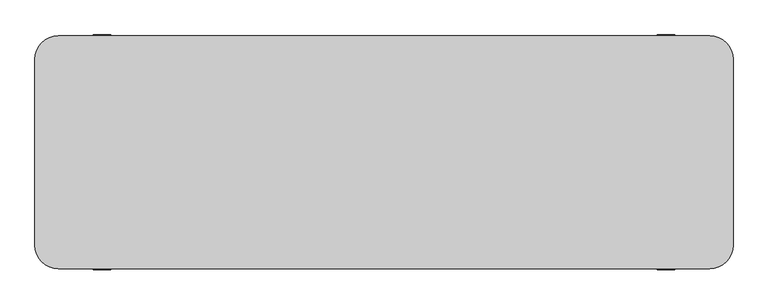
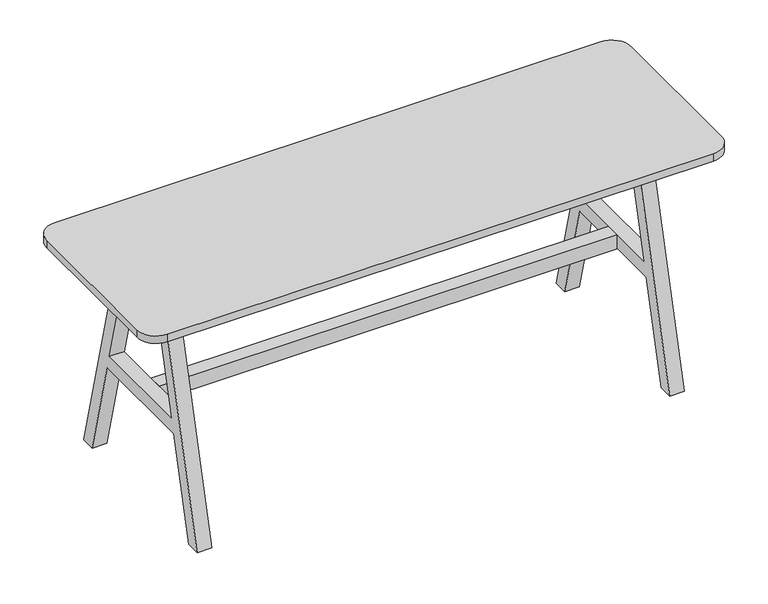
"""IFC4 building model written with IfcOpenShell, lengths in millimetres: furniture geometry, Furniture-Chair-LyndonDesign-Agent_AGE_15 : Furniture-Chair-LyndonDesign-Agent_AGE_15."""

from ifc_helpers import new_model, si_unit, point, frame, frame_2d, origin, place, context, project, spatial, polyline, circle_curve, trimmed, segment, composite_curve, outline, extrude, source, transform, mapped, element, save


def furniture_621fa09e(model_context):
    return source(origin(), model_context, "Body", "SweptSolid", [
        extrude(outline(composite_curve([segment(trimmed(circle_curve(frame_2d((178.4999996, 719.9999819)), 43.9999938), [point((222.3177997, 716.0))], [point((178.4999996, 675.9999881))], False, "CARTESIAN"), True, "CONTINUOUS"), segment(polyline([(178.4999996, 675.9999881), (142.631489, 675.9999881)]), True, "CONTINUOUS"), segment(trimmed(circle_curve(frame_2d((142.631489, 663.8271245)), 12.1728635), [point((142.631489, 675.9999881))], [point((130.4586255, 663.8271245))], True, "CARTESIAN"), True, "CONTINUOUS"), segment(polyline([(130.4586255, 663.8271245), (302.6962324, 0.0), (257.0062993, 0.0), (176.5712314, 309.999989), (-176.571241, 309.999989), (-257.006309, 0.0), (-302.6962421, 0.0), (-131.0218797, 661.6563034)]), True, "CONTINUOUS"), segment(trimmed(circle_curve(frame_2d((-142.1188772, 664.5355474)), 11.4644406), [point((-131.0218797, 661.6563034))], [point((-142.1188772, 675.9999881))], True, "CARTESIAN"), True, "CONTINUOUS"), segment(polyline([(-142.1188772, 675.9999881), (-178.5000011, 675.9999881)]), True, "CONTINUOUS"), segment(trimmed(circle_curve(frame_2d((-178.5000011, 719.9999908)), 44.0000027), [point((-178.5000011, 675.9999881))], [point((-222.3178093, 716.0))], False, "CARTESIAN"), True, "CONTINUOUS"), segment(polyline([(-222.3178093, 716.0), (222.3177997, 716.0)]), True, "CONTINUOUS")], self_intersect=False), holes=[composite_curve([segment(trimmed(circle_curve(frame_2d((-68.0000044, 658.4119913)), 17.5879967), [point((-68.0000044, 675.9999881))], [point((-84.9790443, 663.0000012))], True, "CARTESIAN"), True, "CONTINUOUS"), segment(polyline([(-84.9790443, 663.0000012), (-164.8951823, 354.999989), (164.8951727, 354.999989), (84.9790347, 663.0000012)]), True, "CONTINUOUS"), segment(trimmed(circle_curve(frame_2d((68.1743598, 658.6397263)), 17.3611374), [point((84.9790347, 663.0000012))], [point((67.9999918, 675.9999881))], True, "CARTESIAN"), True, "CONTINUOUS"), segment(polyline([(67.9999918, 675.9999881), (-68.0000044, 675.9999881)]), True, "CONTINUOUS")], self_intersect=False)]), frame((705.0000238, 0.0, 0.0), z_axis=(1.0, 0.0, 0.0), x_axis=(0.0, 1.0, 0.0)), (0.0, 0.0, 1.0), 45.0),
        extrude(outline(composite_curve([segment(trimmed(circle_curve(frame_2d((178.4999996, 719.9999819)), 43.9999938), [point((222.3177997, 716.0))], [point((178.4999996, 675.9999881))], False, "CARTESIAN"), True, "CONTINUOUS"), segment(polyline([(178.4999996, 675.9999881), (142.631489, 675.9999881)]), True, "CONTINUOUS"), segment(trimmed(circle_curve(frame_2d((142.631489, 663.8271245)), 12.1728635), [point((142.631489, 675.9999881))], [point((130.4586255, 663.8271245))], True, "CARTESIAN"), True, "CONTINUOUS"), segment(polyline([(130.4586255, 663.8271245), (302.6962324, 0.0), (257.0062993, 0.0), (176.5712314, 309.999989), (-176.571241, 309.999989), (-257.006309, 0.0), (-302.6962421, 0.0), (-131.0218797, 661.6563034)]), True, "CONTINUOUS"), segment(trimmed(circle_curve(frame_2d((-142.1188772, 664.5355474)), 11.4644406), [point((-131.0218797, 661.6563034))], [point((-142.1188772, 675.9999881))], True, "CARTESIAN"), True, "CONTINUOUS"), segment(polyline([(-142.1188772, 675.9999881), (-178.5000011, 675.9999881)]), True, "CONTINUOUS"), segment(trimmed(circle_curve(frame_2d((-178.5000011, 719.9999908)), 44.0000027), [point((-178.5000011, 675.9999881))], [point((-222.3178093, 716.0))], False, "CARTESIAN"), True, "CONTINUOUS"), segment(polyline([(-222.3178093, 716.0), (222.3177997, 716.0)]), True, "CONTINUOUS")], self_intersect=False), holes=[composite_curve([segment(trimmed(circle_curve(frame_2d((-68.0000044, 658.4119913)), 17.5879967), [point((-68.0000044, 675.9999881))], [point((-84.9790443, 663.0000012))], True, "CARTESIAN"), True, "CONTINUOUS"), segment(polyline([(-84.9790443, 663.0000012), (-164.8951823, 354.999989), (164.8951727, 354.999989), (84.9790347, 663.0000012)]), True, "CONTINUOUS"), segment(trimmed(circle_curve(frame_2d((68.1743598, 658.6397263)), 17.3611374), [point((84.9790347, 663.0000012))], [point((67.9999918, 675.9999881))], True, "CARTESIAN"), True, "CONTINUOUS"), segment(polyline([(67.9999918, 675.9999881), (-68.0000044, 675.9999881)]), True, "CONTINUOUS")], self_intersect=False)]), frame((-750.0000238, 0.0, 0.0), z_axis=(1.0, 0.0, 0.0), x_axis=(0.0, 1.0, 0.0)), (0.0, 0.0, 1.0), 45.0),
        extrude(outline(polyline([(124.9175259, 636.4629989), (101.282585, 632.292918), (86.5227679, 716.0), (110.8930065, 716.0), (124.9175259, 636.4629989)])), frame((-705.0000238, 0.0, 0.0), z_axis=(1.0, 0.0, 0.0), x_axis=(0.0, 1.0, 0.0)), (0.0, 0.0, 1.0), 1410.0000477),
        extrude(outline(polyline([(-124.9175259, 636.4629989), (-110.8930065, 716.0), (-86.5227679, 716.0), (-101.282585, 632.292918), (-124.9175259, 636.4629989)])), frame((-705.0000238, 0.0, 0.0), z_axis=(1.0, 0.0, 0.0), x_axis=(0.0, 1.0, 0.0)), (0.0, 0.0, 1.0), 1410.0000477),
        extrude(outline(composite_curve([segment(polyline([(-840.0, 300.0), (840.0, 300.0)]), True, "CONTINUOUS"), segment(trimmed(circle_curve(frame_2d((840.0, 240.0)), 60.0), [point((840.0, 300.0))], [point((900.0, 240.0))], False, "CARTESIAN"), True, "CONTINUOUS"), segment(polyline([(900.0, 240.0), (900.0, -240.0)]), True, "CONTINUOUS"), segment(trimmed(circle_curve(frame_2d((840.0, -240.0)), 60.0), [point((900.0, -240.0))], [point((840.0, -300.0))], False, "CARTESIAN"), True, "CONTINUOUS"), segment(polyline([(840.0, -300.0), (-840.0, -300.0)]), True, "CONTINUOUS"), segment(trimmed(circle_curve(frame_2d((-840.0, -240.0)), 60.0), [point((-840.0, -300.0))], [point((-900.0, -240.0))], False, "CARTESIAN"), True, "CONTINUOUS"), segment(polyline([(-900.0, -240.0), (-900.0, 240.0)]), True, "CONTINUOUS"), segment(trimmed(circle_curve(frame_2d((-840.0, 240.0)), 60.0), [point((-900.0, 240.0))], [point((-840.0, 300.0))], False, "CARTESIAN"), True, "CONTINUOUS")], self_intersect=False)), frame((0.0, 0.0, 716.0), z_axis=(0.0, 0.0, 1.0), x_axis=(1.0, 0.0, 0.0)), (0.0, 0.0, 1.0), 24.0),
        extrude(outline(polyline([(705.0000238, -22.5), (-705.0000238, -22.5), (-705.0000238, 22.5), (705.0000238, 22.5), (705.0000238, -22.5)])), frame((0.0, 0.0, 309.999989), z_axis=(0.0, 0.0, 1.0), x_axis=(1.0, 0.0, 0.0)), (0.0, 0.0, 1.0), 45.0),
    ])


if __name__ == "__main__":
    model = new_model("IFC4")
    model_context = context("Model", 3, world=origin())
    ifc_project = project(units=[si_unit("LENGTHUNIT", "METRE", prefix="MILLI")], contexts=[model_context])
    site = spatial("IfcSite", under=ifc_project)
    building = spatial("IfcBuilding", under=site)
    placement = place(None, origin())
    furniture_shape = furniture_621fa09e(model_context)
    element("IfcFurniture", 1, ObjectType="Furniture-Chair-LyndonDesign-Agent_AGE_15 : Furniture-Chair-LyndonDesign-Agent_AGE_15", at=placement, inside=building, context=model_context, shape_type="MappedRepresentation", body=[
        mapped(furniture_shape, transform((0.0, 0.0, 0.0), x_axis=(1.0, 0.0, 0.0), y_axis=(0.0, 1.0, 0.0), z_axis=(0.0, 0.0, 1.0))),
    ])
    save(model, "model.ifc")
